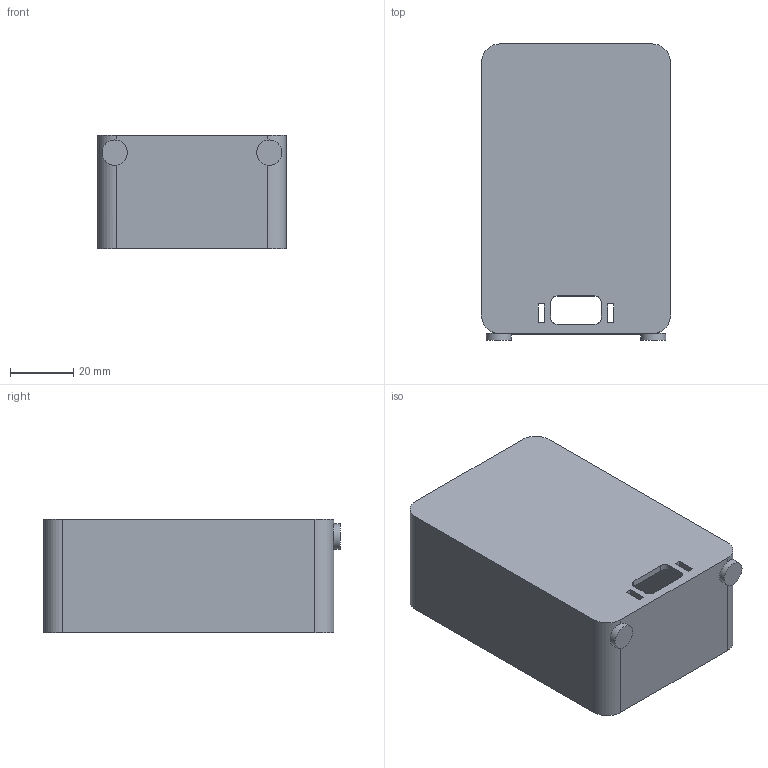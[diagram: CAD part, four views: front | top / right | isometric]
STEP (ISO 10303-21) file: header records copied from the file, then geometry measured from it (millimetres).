
FILE_DESCRIPTION(('Open CASCADE Model'),'2;1');
FILE_NAME('Open CASCADE Shape Model','2026-11-09T21:30:06',('Author'),( 'Open CASCADE'),'Open CASCADE STEP processor 8.0','Open CASCADE 8.0' ,'Unknown');
FILE_SCHEMA(('AUTOMOTIVE_DESIGN { 1 0 10303 214 1 1 1 1 }'));
Length unit declared in the file: millimetre
Products named in the file (1): Open CASCADE STEP translator 8.0 2
Bounding box: 60 x 94 x 36 mm (x, y, z)
Volume: 31063.8 mm3; surface area: 31996.2 mm2
Topology: 1 solids, 1 shells, 108 faces, 278 edges, 182 vertices
Faces by surface type: plane 73, cylinder 35
Full cylindrical faces by diameter (mm): 1.6 x4, 4.2 x4, 5 x4, 8 x2
Entity records: 6976 total; most frequent: CARTESIAN_POINT 1579, DIRECTION 958, ORIENTED_EDGE 556, PCURVE 556, DEFINITIONAL_REPRESENTATION 556, LINE 452, VECTOR 452, EDGE_CURVE 278
